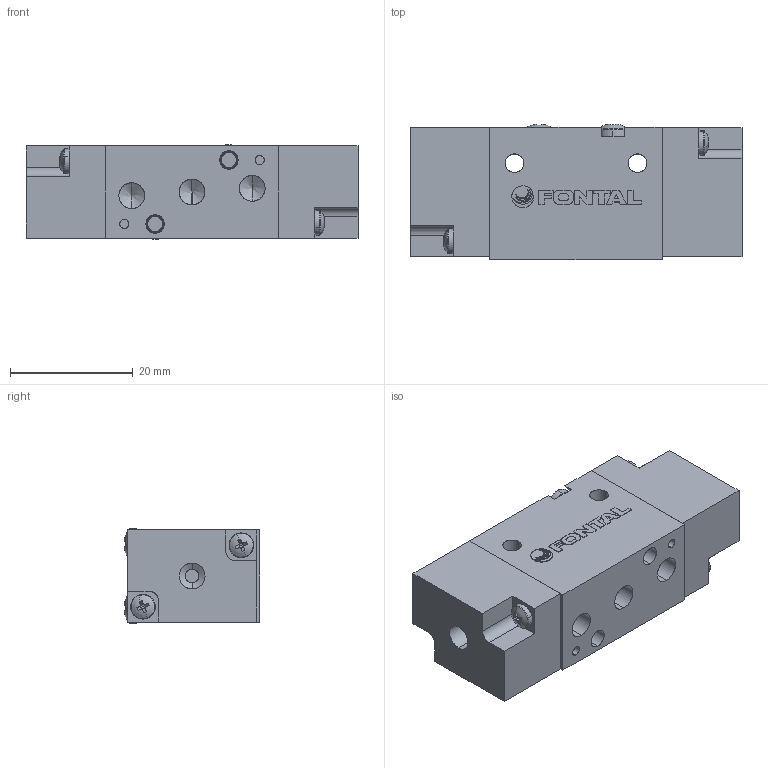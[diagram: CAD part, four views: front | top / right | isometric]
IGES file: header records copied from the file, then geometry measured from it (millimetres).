
Start section: SolidWorks IGES file using analytic representation for surfaces
Global section: file name: D:\Custom\3D繪製\VC\YC5\YCD245-M5.IGS, ; native system: SolidWorks 2014; preprocessor: SolidWorks 2014; author: Chieh_Lu; date: 160114.021657; units: millimetre
Bounding box: 54 x 22.05 x 15.4 mm (x, y, z)
Surface area: 8676.7 mm2 (no closed solid volume)
Topology: 0 solids, 0 shells, 442 faces, 4028 edges, 4006 vertices
Faces by surface type: bspline 265, revolution 177
